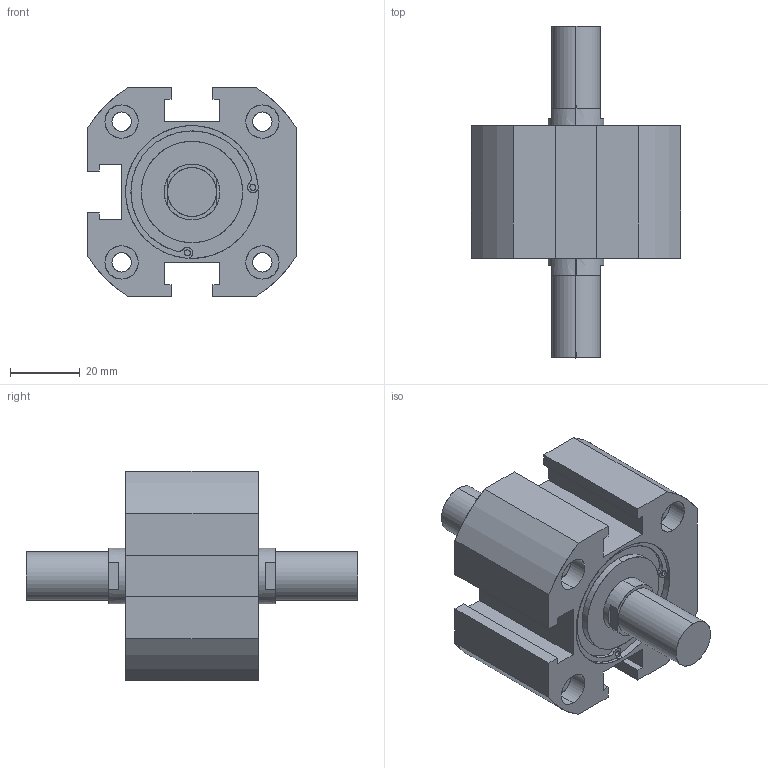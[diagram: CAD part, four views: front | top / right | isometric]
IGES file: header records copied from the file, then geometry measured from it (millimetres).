
Start section: SolidWorks IGES file using analytic representation for surfaces
Global section: file name: C:\Users\Toshiba\Desktop\XC#M7-40-10.IGS; native system: SolidWorks 2014; preprocessor: SolidWorks 2014; author: Toshiba; date: 160523.165648; units: millimetre
Bounding box: 60 x 95 x 60 mm (x, y, z)
Surface area: 24189.8 mm2 (no closed solid volume)
Topology: 0 solids, 0 shells, 149 faces, 2752 edges, 2748 vertices
Faces by surface type: revolution 85, bspline 64
